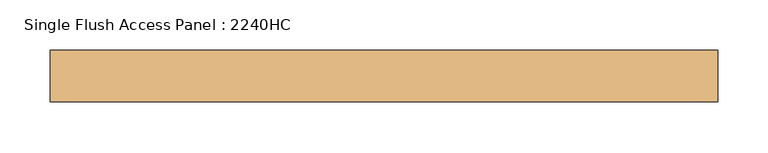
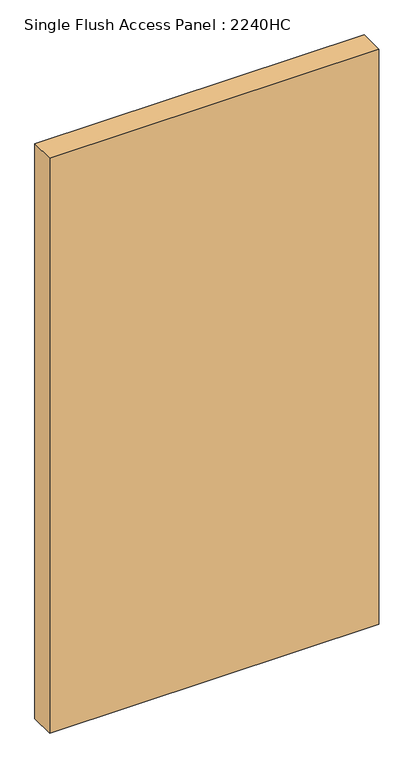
"""IFC4 building model written with IfcOpenShell, lengths in millimetres: door geometry, Single Flush Access Panel : 2240HC."""

from ifc_helpers import new_model, si_unit, origin, origin_with_axes, place, context, project, spatial, polyline, outline, extrude, source, transform, mapped, element, save


def single_flush_access_panel_2240hc_e817886f(model_context):
    return source(origin(), model_context, "Body", "SweptSolid", [
        extrude(outline(polyline([(330.2, 6.35), (-330.2, 6.35), (-330.2, 57.15), (330.2, 57.15), (330.2, 6.35)])), origin_with_axes(), (0.0, 0.0, 1.0), 1219.2),
    ])


if __name__ == "__main__":
    model = new_model("IFC4")
    model_context = context("Model", 3, world=origin())
    ifc_project = project(units=[si_unit("LENGTHUNIT", "METRE", prefix="MILLI")], contexts=[model_context])
    site = spatial("IfcSite", under=ifc_project)
    building = spatial("IfcBuilding", under=site)
    placement = place(None, origin())
    single_flush_access_panel_2240hc_shape = single_flush_access_panel_2240hc_e817886f(model_context)
    element("IfcDoor", 1, ObjectType="Single Flush Access Panel : 2240HC", at=placement, inside=building, context=model_context, shape_type="MappedRepresentation", body=[
        mapped(single_flush_access_panel_2240hc_shape, transform((0.0, 0.0, 0.0), x_axis=(1.0, 0.0, 0.0), y_axis=(0.0, 1.0, 0.0), z_axis=(0.0, 0.0, 1.0))),
    ])
    save(model, "model.ifc")
